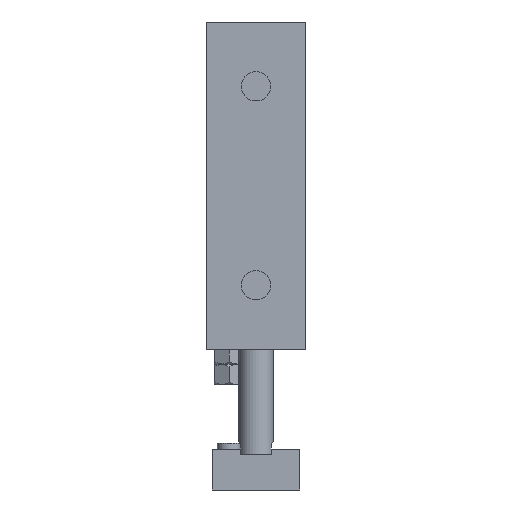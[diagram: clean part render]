
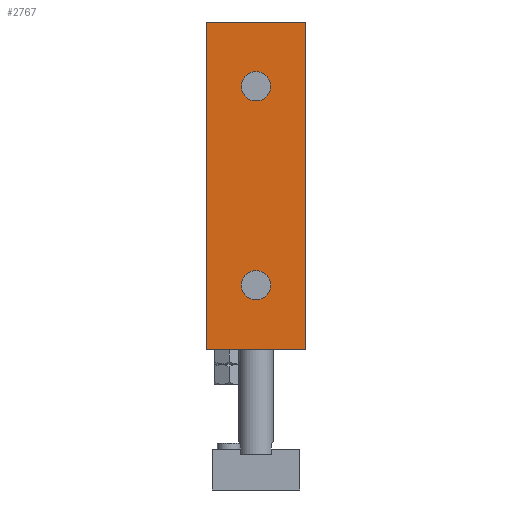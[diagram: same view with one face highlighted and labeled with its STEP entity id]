
A CAD part, front view. The second image highlights one B-rep face of the part: STEP entity #2767.
In plain terms, the highlighted planar face has unit normal (0, -1, 0).
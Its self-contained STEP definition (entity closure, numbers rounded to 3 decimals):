
#121=CARTESIAN_POINT('',(2.5,-21.0,69.0));
#122=VERTEX_POINT('',#121);
#123=CARTESIAN_POINT('',(0.0,-21.0,69.0));
#124=DIRECTION('',(0.0,1.0,0.0));
#125=DIRECTION('',(-1.0,0.0,0.0));
#126=AXIS2_PLACEMENT_3D('',#123,#124,#125);
#127=CIRCLE('',#126,2.5);
#128=EDGE_CURVE('',#122,#122,#127,.T.);
#158=CARTESIAN_POINT('',(2.5,-21.0,35.));
#159=VERTEX_POINT('',#158);
#160=CARTESIAN_POINT('',(0.0,-21.0,35.));
#161=DIRECTION('',(0.0,1.0,0.0));
#162=DIRECTION('',(-1.0,0.0,0.0));
#163=AXIS2_PLACEMENT_3D('',#160,#161,#162);
#164=CIRCLE('',#163,2.5);
#165=EDGE_CURVE('',#159,#159,#164,.T.);
#2582=CARTESIAN_POINT('',(-8.5,-21.0,80.0));
#2583=VERTEX_POINT('',#2582);
#2590=CARTESIAN_POINT('',(8.5,-21.0,80.0));
#2591=VERTEX_POINT('',#2590);
#2592=CARTESIAN_POINT('',(8.5,-21.0,80.0));
#2593=DIRECTION('',(-1.0,0.0,0.0));
#2594=VECTOR('',#2593,17.);
#2595=LINE('',#2592,#2594);
#2596=EDGE_CURVE('',#2591,#2583,#2595,.T.);
#2642=CARTESIAN_POINT('',(8.5,-21.0,24.));
#2643=VERTEX_POINT('',#2642);
#2644=CARTESIAN_POINT('',(8.5,-21.0,24.));
#2645=DIRECTION('',(0.0,0.0,1.0));
#2646=VECTOR('',#2645,56.0);
#2647=LINE('',#2644,#2646);
#2648=EDGE_CURVE('',#2643,#2591,#2647,.T.);
#2703=CARTESIAN_POINT('',(-8.5,-21.0,24.));
#2704=VERTEX_POINT('',#2703);
#2705=CARTESIAN_POINT('',(8.5,-21.0,24.));
#2706=DIRECTION('',(-1.0,0.0,0.0));
#2707=VECTOR('',#2706,17.);
#2708=LINE('',#2705,#2707);
#2709=EDGE_CURVE('',#2643,#2704,#2708,.T.);
#2745=CARTESIAN_POINT('',(8.5,-21.0,24.));
#2746=DIRECTION('',(0.0,-1.0,0.0));
#2747=DIRECTION('',(0.0,0.0,-1.0));
#2748=AXIS2_PLACEMENT_3D('',#2745,#2746,#2747);
#2749=PLANE('',#2748);
#2750=ORIENTED_EDGE('',*,*,#2596,.T.);
#2751=CARTESIAN_POINT('',(-8.5,-21.0,24.));
#2752=DIRECTION('',(0.0,0.0,1.0));
#2753=VECTOR('',#2752,56.0);
#2754=LINE('',#2751,#2753);
#2755=EDGE_CURVE('',#2704,#2583,#2754,.T.);
#2756=ORIENTED_EDGE('',*,*,#2755,.F.);
#2757=ORIENTED_EDGE('',*,*,#2709,.F.);
#2758=ORIENTED_EDGE('',*,*,#2648,.T.);
#2759=EDGE_LOOP('',(#2750,#2756,#2757,#2758));
#2760=FACE_OUTER_BOUND('',#2759,.T.);
#2761=ORIENTED_EDGE('',*,*,#128,.T.);
#2762=EDGE_LOOP('',(#2761));
#2763=FACE_BOUND('',#2762,.T.);
#2764=ORIENTED_EDGE('',*,*,#165,.T.);
#2765=EDGE_LOOP('',(#2764));
#2766=FACE_BOUND('',#2765,.T.);
#2767=ADVANCED_FACE('',(#2760,#2763,#2766),#2749,.T.);
